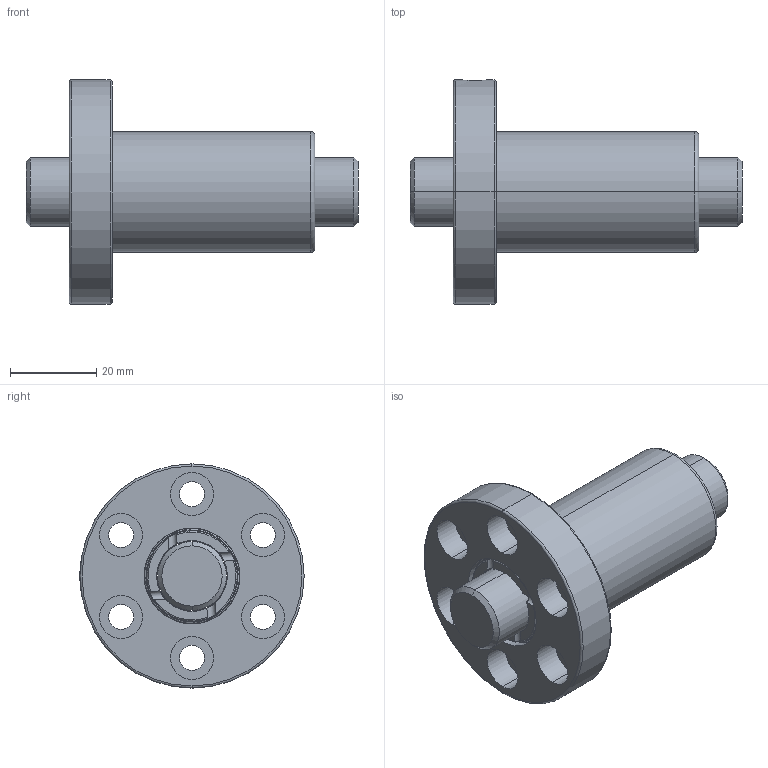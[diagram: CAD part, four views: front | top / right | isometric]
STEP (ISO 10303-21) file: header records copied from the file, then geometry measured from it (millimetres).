
FILE_DESCRIPTION (( 'STEP AP203' ), '1' );
FILE_NAME ('SFZR01610T3N-C.STEP', '2020-06-18T00:55:33', ( '' ), ( '' ), 'SwSTEP 2.0', 'SolidWorks 2013', '' );
FILE_SCHEMA (( 'CONFIG_CONTROL_DESIGN' ));
Length unit declared in the file: millimetre
Products named in the file (1): SFZR01610T3N-C
Bounding box: 77 x 52 x 52 mm (x, y, z)
Volume: 48312.8 mm3; surface area: 19472.4 mm2
Topology: 2 solids, 2 shells, 122 faces, 292 edges, 184 vertices
Faces by surface type: cylinder 66, torus 26, plane 26, cone 4
Entity records: 4047 total; most frequent: CARTESIAN_POINT 1035, DIRECTION 664, ORIENTED_EDGE 584, AXIS2_PLACEMENT_3D 295, EDGE_CURVE 292, VERTEX_POINT 184, CIRCLE 172, EDGE_LOOP 150
